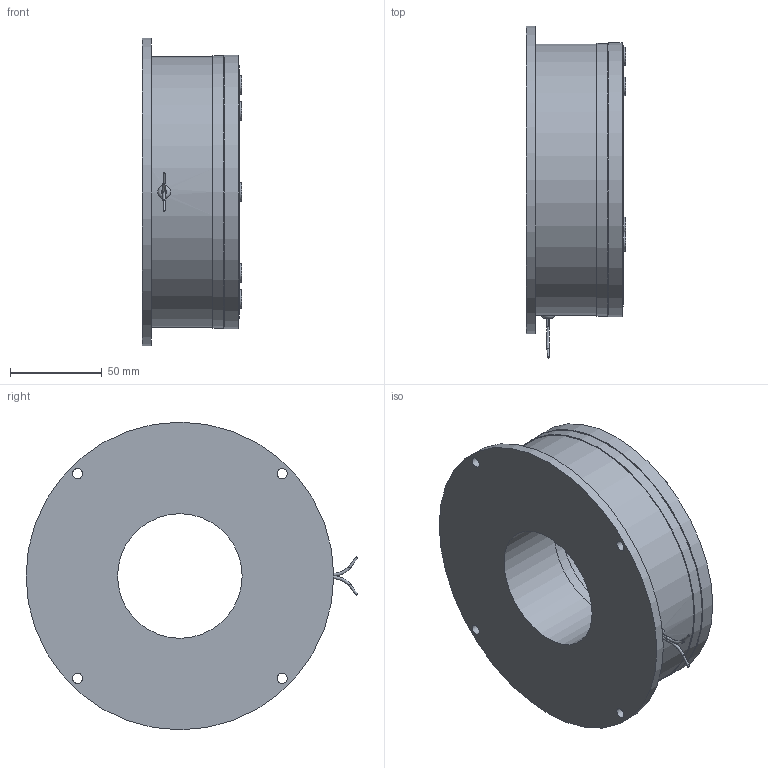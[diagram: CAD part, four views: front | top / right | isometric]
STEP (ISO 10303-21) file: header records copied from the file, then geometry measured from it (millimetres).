
FILE_DESCRIPTION(/* description */ (''),/* implementation_level */ '2;1');
FILE_NAME(/* name */ 'X:\INVENTOR\DISEGNI\08_Freni_Friz_Elettmag_Monodisco\08_28 EMFL_DF\EMFL_DF STEP\08_28_150_11 EMFL150_DF-B@STEP.stp',/* time_stamp */ '2018-04-23T15:58:12+02:00',/* author */ ('stefano'),/* organization */ (''),/* preprocessor_version */ 'ST-DEVELOPER v17',/* originating_system */ 'Autodesk Inventor 2018',/* authorisation */ '');
FILE_SCHEMA (('AUTOMOTIVE_DESIGN { 1 0 10303 214 3 1 1 }'));
Length unit declared in the file: millimetre
Products named in the file (1): 08_28_150_11 EMFL150_DF-B_Substitute_1
Bounding box: 54.5 x 181.22 x 168 mm (x, y, z)
Volume: 711145.7 mm3; surface area: 127438.5 mm2
Topology: 3 solids, 3 shells, 230 faces, 677 edges, 458 vertices
Faces by surface type: cylinder 159, plane 55, cone 13, bspline 2, torus 1
Full cylindrical faces by diameter (mm): 1.154 x2, 1.5 x1, 2.2 x6, 5.5 x4, 6 x1, 7.5 x6, 8.1 x3, 10 x12, 68 x2, 74 x1, 95 x1, 132 x1, 148 x1, 149 x1, 149.5 x1, 168 x1
Entity records: 8687 total; most frequent: DIRECTION 1623, CARTESIAN_POINT 1584, ORIENTED_EDGE 1356, AXIS2_PLACEMENT_3D 723, EDGE_CURVE 678, CIRCLE 494, VERTEX_POINT 459, EDGE_LOOP 304
